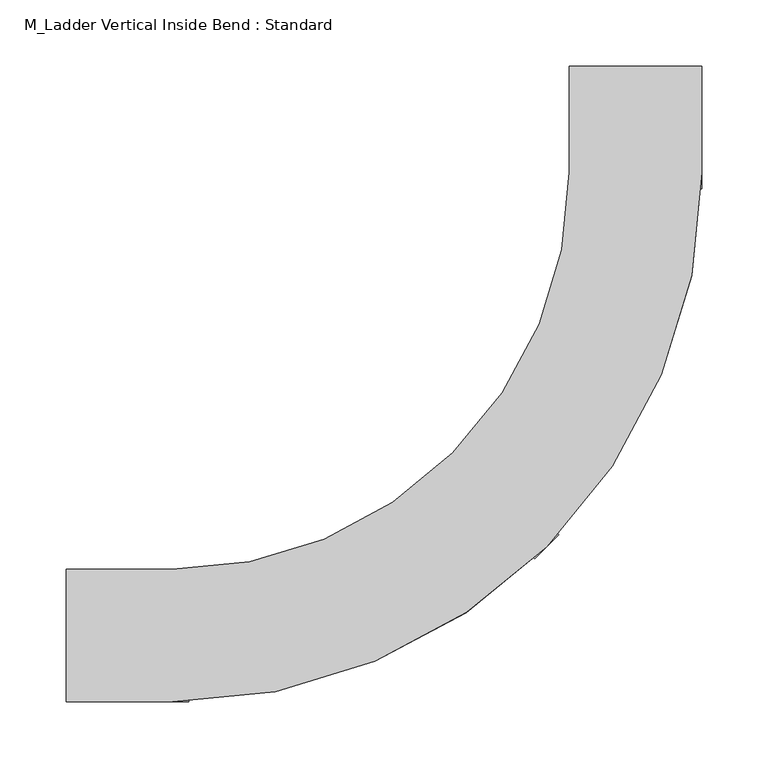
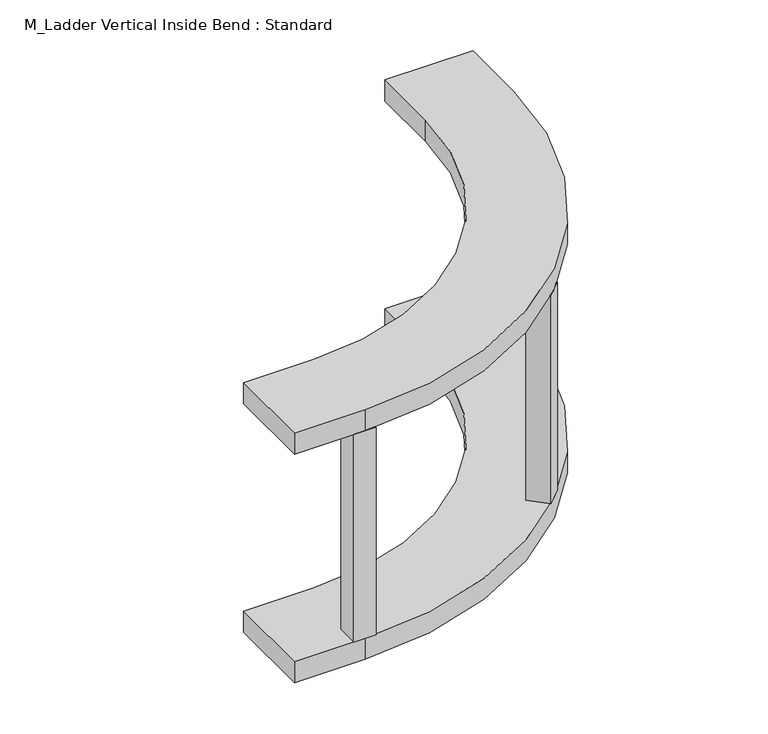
"""IFC4 building model written with IfcOpenShell, lengths in millimetres: cable carrier fitting geometry, M_Ladder Vertical Inside Bend : Standard."""

from ifc_helpers import new_model, si_unit, point, frame, frame_2d, origin, place, context, project, spatial, polyline, circle_curve, trimmed, segment, composite_curve, outline, extrude, source, transform, mapped, element, save


def m_ladder_vertical_inside_bend_standard_9c9c70af(model_context):
    return source(origin(), model_context, "Body", "SweptSolid", [
        extrude(outline(polyline([(24.6, 362.7), (50.0, 362.7), (50.0, 337.3), (24.6, 337.3), (24.6, 362.7)])), frame((0.0, 0.0, -124.6), z_axis=(0.0, 0.0, 1.0), x_axis=(1.0, 0.0, 0.0)), (0.0, 0.0, 1.0), 249.2),
        extrude(outline(polyline([(-76.1375436, 94.0980559), (-58.1770314, 76.1375436), (-76.1375436, 58.1770314), (-94.0980559, 76.1375436), (-76.1375436, 94.0980559)])), frame((0.0, 0.0, -124.6), z_axis=(0.0, 0.0, 1.0), x_axis=(1.0, 0.0, 0.0)), (0.0, 0.0, 1.0), 249.2),
        extrude(outline(polyline([(-362.7, -50.0), (-362.7, -24.6), (-337.3, -24.6), (-337.3, -50.0), (-362.7, -50.0)])), frame((0.0, 0.0, -124.6), z_axis=(0.0, 0.0, 1.0), x_axis=(1.0, 0.0, 0.0)), (0.0, 0.0, 1.0), 249.2),
        extrude(outline(composite_curve([segment(polyline([(-430.0, -50.0), (-430.0, 50.0), (-350.0, 50.0)]), True, "CONTINUOUS"), segment(trimmed(circle_curve(frame_2d((-350.0, 350.0)), 300.0), [point((-350.0, 50.0))], [point((-50.0, 350.0))], True, "CARTESIAN"), True, "CONTINUOUS"), segment(polyline([(-50.0, 350.0), (-50.0, 430.0), (50.0, 430.0), (50.0, 350.0)]), True, "CONTINUOUS"), segment(trimmed(circle_curve(frame_2d((-350.0, 350.0)), 400.0), [point((50.0, 350.0))], [point((-350.0, -50.0))], False, "CARTESIAN"), True, "CONTINUOUS"), segment(polyline([(-350.0, -50.0), (-430.0, -50.0)]), True, "CONTINUOUS")], self_intersect=False)), frame((0.0, 0.0, 124.6), z_axis=(0.0, 0.0, 1.0), x_axis=(1.0, 0.0, 0.0)), (0.0, 0.0, 1.0), 25.4),
        extrude(outline(composite_curve([segment(polyline([(-430.0, -50.0), (-430.0, 50.0), (-350.0, 50.0)]), True, "CONTINUOUS"), segment(trimmed(circle_curve(frame_2d((-350.0, 350.0)), 300.0), [point((-350.0, 50.0))], [point((-50.0, 350.0))], True, "CARTESIAN"), True, "CONTINUOUS"), segment(polyline([(-50.0, 350.0), (-50.0, 430.0), (50.0, 430.0), (50.0, 350.0)]), True, "CONTINUOUS"), segment(trimmed(circle_curve(frame_2d((-350.0, 350.0)), 400.0), [point((50.0, 350.0))], [point((-350.0, -50.0))], False, "CARTESIAN"), True, "CONTINUOUS"), segment(polyline([(-350.0, -50.0), (-430.0, -50.0)]), True, "CONTINUOUS")], self_intersect=False)), frame((0.0, 0.0, -150.0), z_axis=(0.0, 0.0, 1.0), x_axis=(1.0, 0.0, 0.0)), (0.0, 0.0, 1.0), 25.4),
    ])


if __name__ == "__main__":
    model = new_model("IFC4")
    model_context = context("Model", 3, world=origin())
    ifc_project = project(units=[si_unit("LENGTHUNIT", "METRE", prefix="MILLI")], contexts=[model_context])
    site = spatial("IfcSite", under=ifc_project)
    building = spatial("IfcBuilding", under=site)
    placement = place(None, origin())
    m_ladder_vertical_inside_bend_standard_shape = m_ladder_vertical_inside_bend_standard_9c9c70af(model_context)
    element("IfcCableCarrierFitting", 1, ObjectType="M_Ladder Vertical Inside Bend : Standard", at=placement, inside=building, context=model_context, shape_type="MappedRepresentation", body=[
        mapped(m_ladder_vertical_inside_bend_standard_shape, transform((0.0, 0.0, 0.0), x_axis=(1.0, 0.0, 0.0), y_axis=(0.0, 1.0, 0.0), z_axis=(0.0, 0.0, 1.0))),
    ])
    save(model, "model.ifc")
